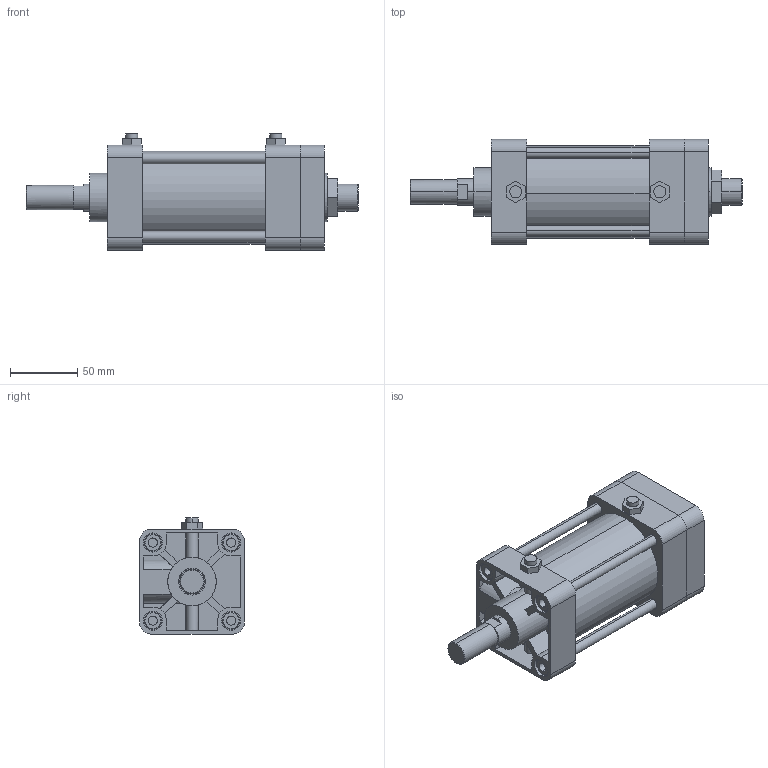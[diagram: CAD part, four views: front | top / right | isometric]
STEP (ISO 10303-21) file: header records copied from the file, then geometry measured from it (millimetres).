
FILE_DESCRIPTION (( 'STEP AP203' ), '1' );
FILE_NAME ('KGA2-63#-50-N.STEP', '2016-04-14T07:42:03', ( '' ), ( '' ), 'SwSTEP 2.0', 'SolidWorks 2014', '' );
FILE_SCHEMA (( 'CONFIG_CONTROL_DESIGN' ));
Length unit declared in the file: millimetre
Products named in the file (7): KGA2-63-After; KGLH2-63-50; KG2-63-After; KGA2-63#-50-N
Assembly tree (16 placements, depth 2):
  KGA2-63#-50-N
    KG2-63-After
    KGLH2-63-50
    (unnamed)
    (unnamed)  x4
    (unnamed)  x8
    KGA2-63-After
Bounding box: 246.5 x 78 x 86.3 mm (x, y, z)
Volume: 717659 mm3; surface area: 140268.7 mm2
Topology: 16 solids, 16 shells, 354 faces, 840 edges, 536 vertices
Faces by surface type: plane 152, cylinder 136, torus 38, cone 28
Entity records: 9160 total; most frequent: CARTESIAN_POINT 1698, DIRECTION 1418, ORIENTED_EDGE 1300, EDGE_CURVE 650, AXIS2_PLACEMENT_3D 529, VERTEX_POINT 426, VECTOR 360, LINE 360
